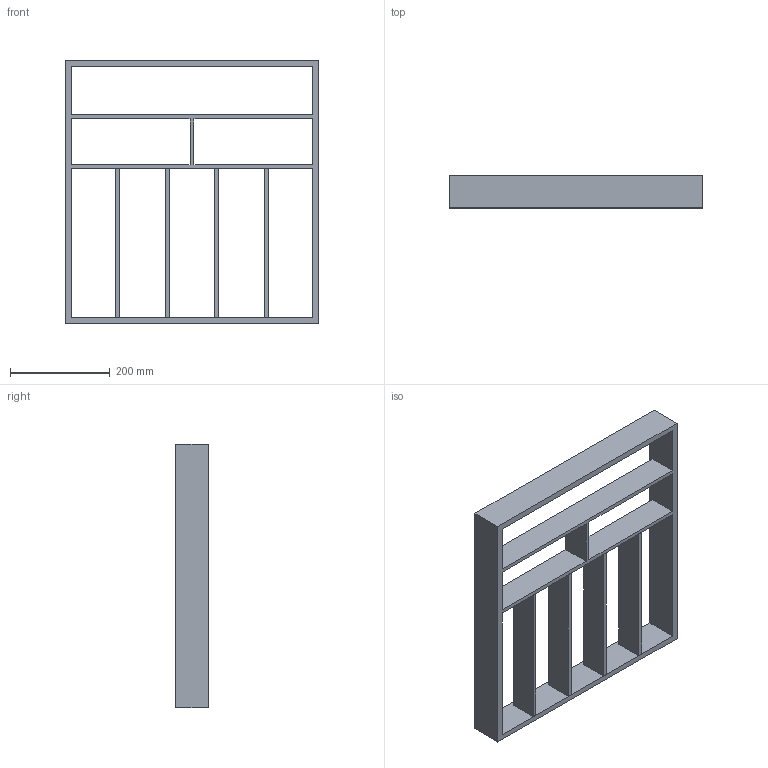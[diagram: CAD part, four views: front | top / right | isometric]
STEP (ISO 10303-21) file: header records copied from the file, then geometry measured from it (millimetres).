
FILE_DESCRIPTION (( 'STEP AP214' ), '1' );
FILE_NAME ('Vario Besteck NL550_B600_16 mm_Alu.step', '2010-11-04T08:33:22', ( 'grass' ), ( '' ), 'SwSTEP 2.0', 'SolidWorks 2010', '' );
FILE_SCHEMA (( 'AUTOMOTIVE_DESIGN' ));
Length unit declared in the file: millimetre
Products named in the file (1): Vario Besteck NL550_B600_16 mm_Alu
Bounding box: 508 x 65 x 529 mm (x, y, z)
Volume: 2609016 mm3; surface area: 606196 mm2
Topology: 5 solids, 5 shells, 43 faces, 108 edges, 72 vertices
Faces by surface type: plane 43
Entity records: 1348 total; most frequent: CARTESIAN_POINT 224, ORIENTED_EDGE 216, DIRECTION 196, LINE 108, VECTOR 108, EDGE_CURVE 108, VERTEX_POINT 72, EDGE_LOOP 48
